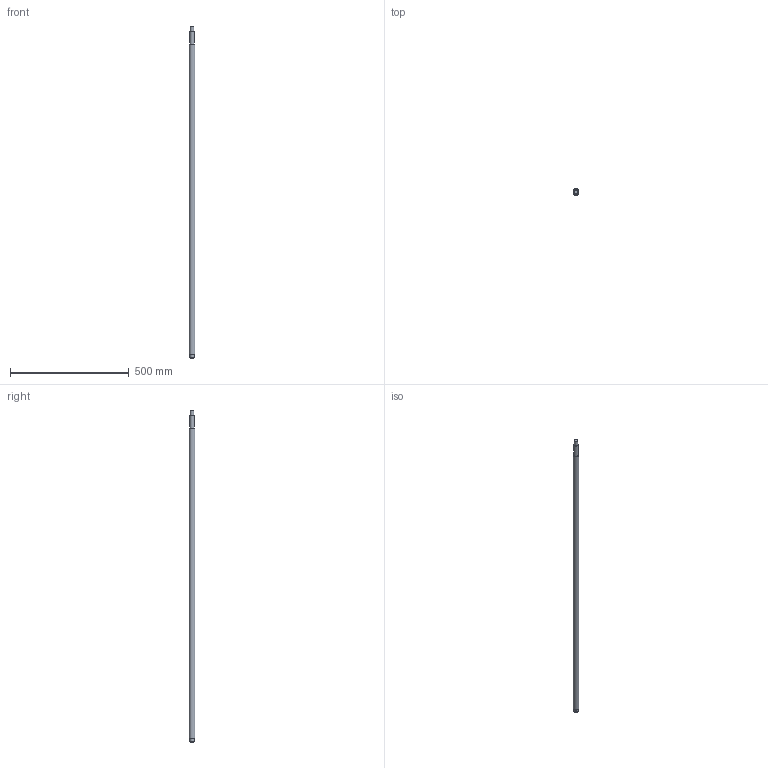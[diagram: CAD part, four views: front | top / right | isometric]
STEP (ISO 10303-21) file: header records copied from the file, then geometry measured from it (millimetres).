
FILE_DESCRIPTION(/* description */ (''),/* implementation_level */ '2;1');
FILE_NAME(/* name */ 'C:\Users\David Dillkötter\ownCloud\Kamp und Kötter\Artikel\_CAD-Dateien\CAD-Dateien-Shop\CAD-Dateien\Kugelumlaufspindel\2510\KUS2510x1400.stp',/* time_stamp */ '2020-09-03T09:47:01+02:00',/* author */ ('David Dillkötter'),/* organization */ (''),/* preprocessor_version */ 'ST-DEVELOPER v18.1',/* originating_system */ 'Autodesk Inventor 2021',/* authorisation */ '');
FILE_SCHEMA (('AUTOMOTIVE_DESIGN { 1 0 10303 214 3 1 1 }'));
Length unit declared in the file: millimetre
Products named in the file (1): KUS2510_Gewindespindel
Bounding box: 25 x 25 x 1400 mm (x, y, z)
Volume: 661760.5 mm3; surface area: 108492.2 mm2
Topology: 1 solids, 1 shells, 17 faces, 30 edges, 20 vertices
Faces by surface type: plane 7, cylinder 6, cone 4
Full cylindrical faces by diameter (mm): 15 x1, 16.2 x1, 17 x3, 25 x1
Entity records: 465 total; most frequent: DIRECTION 86, CARTESIAN_POINT 68, ORIENTED_EDGE 60, AXIS2_PLACEMENT_3D 38, EDGE_CURVE 30, EDGE_LOOP 22, CIRCLE 20, VERTEX_POINT 20
